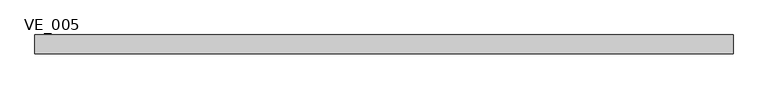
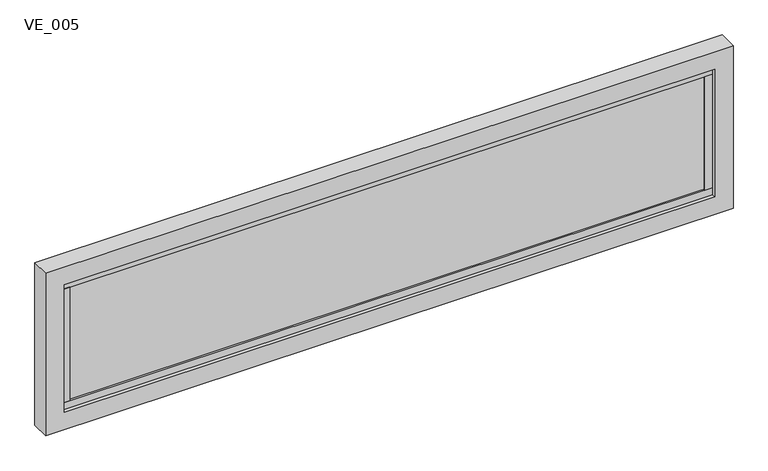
"""IFC4 building model written with IfcOpenShell, lengths in millimetres: plate geometry, TRP_CP_ARC_PF_RE : VE_005."""

from ifc_helpers import new_model, si_unit, frame, origin, place, context, project, spatial, polyline, outline, extrude, source, transform, mapped, element, save


def ve_005_f4ff7d61(model_context):
    return source(origin(), model_context, "Body", "SweptSolid", [
        extrude(outline(polyline([(855.0, -10.0), (-855.0, -10.0), (-855.0, 10.0), (855.0, 10.0), (855.0, -10.0)])), frame((0.0, 0.0, 70.0), z_axis=(0.0, 0.0, 1.0), x_axis=(1.0, 0.0, 0.0)), (0.0, 0.0, 1.0), 323.0),
        extrude(outline(polyline([(875.0, -15.0), (855.0, -15.0), (855.0, 15.0), (875.0, 15.0), (875.0, -15.0)])), frame((0.0, 0.0, 70.0), z_axis=(0.0, 0.0, 1.0), x_axis=(1.0, 0.0, 0.0)), (0.0, 0.0, 1.0), 323.0),
        extrude(outline(polyline([(-855.0, -15.0), (-875.0, -15.0), (-875.0, 15.0), (-855.0, 15.0), (-855.0, -15.0)])), frame((0.0, 0.0, 70.0), z_axis=(0.0, 0.0, 1.0), x_axis=(1.0, 0.0, 0.0)), (0.0, 0.0, 1.0), 323.0),
        extrude(outline(polyline([(875.0, -15.0), (-875.0, -15.0), (-875.0, 15.0), (875.0, 15.0), (875.0, -15.0)])), frame((0.0, 0.0, 50.0), z_axis=(0.0, 0.0, 1.0), x_axis=(1.0, 0.0, 0.0)), (0.0, 0.0, 1.0), 20.0),
        extrude(outline(polyline([(875.0, -15.0), (-875.0, -15.0), (-875.0, 15.0), (875.0, 15.0), (875.0, -15.0)])), frame((0.0, 0.0, 393.0), z_axis=(0.0, 0.0, 1.0), x_axis=(1.0, 0.0, 0.0)), (0.0, 0.0, 1.0), 20.0),
        extrude(outline(polyline([(463.0, 925.0), (463.0, -925.0), (0.0, -925.0), (0.0, 925.0), (463.0, 925.0)]), holes=[polyline([(50.0, 875.0), (50.0, -875.0), (413.0, -875.0), (413.0, 875.0), (50.0, 875.0)])]), frame((0.0, -25.0, 0.0), z_axis=(0.0, 1.0, 0.0), x_axis=(0.0, 0.0, 1.0)), (0.0, 0.0, 1.0), 50.0),
    ])


if __name__ == "__main__":
    model = new_model("IFC4")
    model_context = context("Model", 3, world=origin())
    ifc_project = project(units=[si_unit("LENGTHUNIT", "METRE", prefix="MILLI")], contexts=[model_context])
    site = spatial("IfcSite", under=ifc_project)
    building = spatial("IfcBuilding", under=site)
    placement = place(None, origin())
    ve_005_shape = ve_005_f4ff7d61(model_context)
    element("IfcPlate", 1, ObjectType="TRP_CP_ARC_PF_RE : VE_005", at=placement, inside=building, context=model_context, shape_type="MappedRepresentation", body=[
        mapped(ve_005_shape, transform((0.0, 0.0, 0.0), x_axis=(1.0, 0.0, 0.0), y_axis=(0.0, 1.0, 0.0), z_axis=(0.0, 0.0, 1.0))),
    ])
    save(model, "model.ifc")
